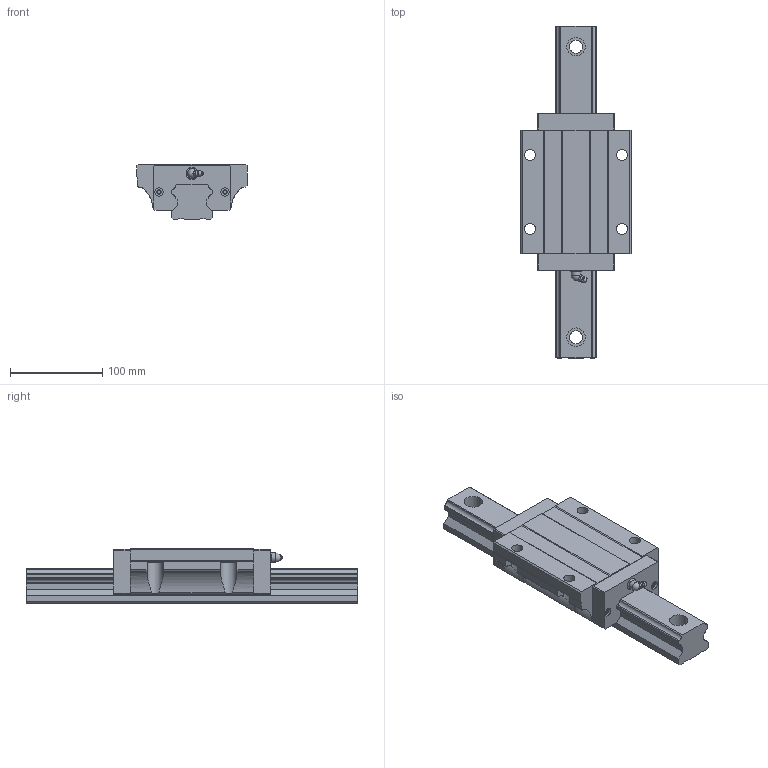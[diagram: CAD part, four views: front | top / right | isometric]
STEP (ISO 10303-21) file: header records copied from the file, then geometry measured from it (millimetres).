
FILE_DESCRIPTION(/* description */ (''),/* implementation_level */ '2;1');
FILE_NAME(/* name */ 'MSA45LE',/* time_stamp */ '2003-12-27T16:43:40+08:00',/* author */ (''),/* organization */ (''),/* preprocessor_version */ 'ST-DEVELOPER v9',/* originating_system */ '',/* authorisation */ '');
FILE_SCHEMA (('CONFIG_CONTROL_DESIGN'));
Length unit declared in the file: millimetre
Products named in the file (1): zircC7DFjm96
Bounding box: 120 x 360 x 60 mm (x, y, z)
Volume: 1141759 mm3; surface area: 147385.6 mm2
Topology: 3 solids, 3 shells, 203 faces, 542 edges, 359 vertices
Faces by surface type: plane 141, cylinder 51, torus 7, sphere 2, cone 1, bspline 1
Full cylindrical faces by diameter (mm): 4.5 x4, 9 x4, 10 x1, 12 x4, 13 x2, 14 x4, 20 x4
Entity records: 6413 total; most frequent: CARTESIAN_POINT 1312, ORIENTED_EDGE 1020, DIRECTION 1006, EDGE_CURVE 510, LINE 358, VECTOR 358, VERTEX_POINT 354, AXIS2_PLACEMENT_3D 324
